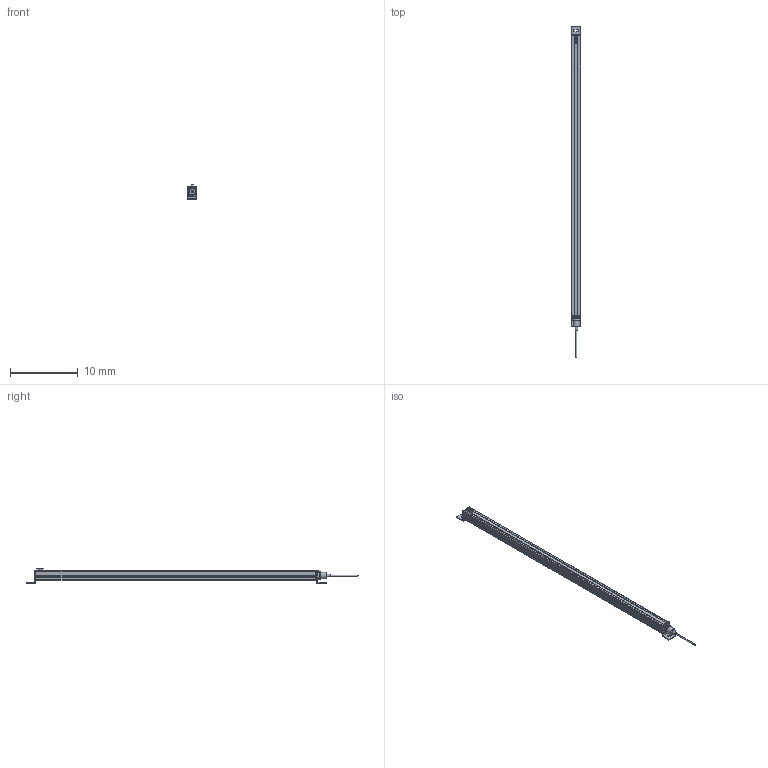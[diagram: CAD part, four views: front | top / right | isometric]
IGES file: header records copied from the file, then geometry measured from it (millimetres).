
Start section:  Autodesk DirectConnect version 7.0.27.0 ---- IGES version 5.3
Global section: file name: C:\ACADFILES\MG_PYLONS\CUSTOMER_FILES\MG-40-PYLON_3D_L.iges; native system: Autodesk DirectConnect 7.0.27.0; preprocessor: 7.0.27.0; author: ENGINEERMAIN; organization: Unknown; date: 20150810.142406; units: millimetre
Bounding box: 1.46 x 48.85 x 2.11 mm (x, y, z)
Surface area: 632.7 mm2 (no closed solid volume)
Topology: 0 solids, 0 shells, 630 faces, 3369 edges, 3383 vertices
Faces by surface type: bspline 630
